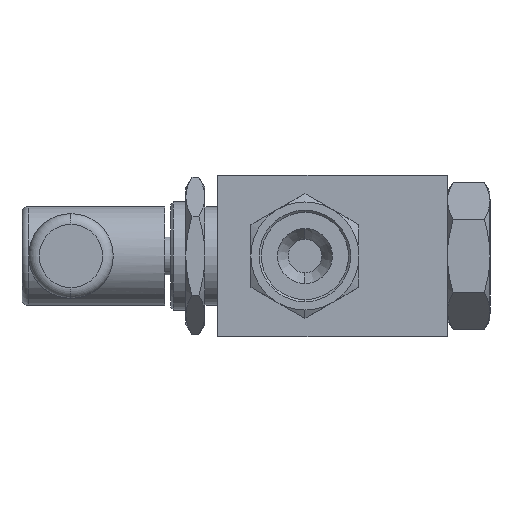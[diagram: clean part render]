
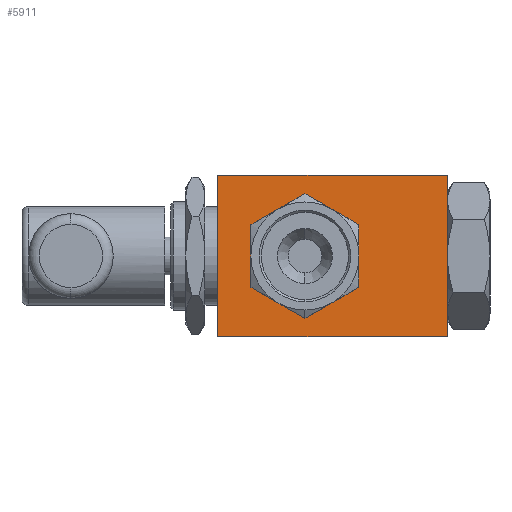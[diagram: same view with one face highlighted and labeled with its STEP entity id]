
A CAD part, left-side view. The second image highlights one B-rep face of the part: STEP entity #5911.
In plain terms, the highlighted planar face has unit normal (-1, 0, 0).
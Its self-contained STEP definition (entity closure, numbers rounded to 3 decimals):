
#17 = CARTESIAN_POINT ( 'NONE',  ( -33.25, -27., 19. ) ) ;
#22 = EDGE_LOOP ( 'NONE', ( #5785, #805, #2081, #5235 ) ) ;
#73 = DIRECTION ( 'NONE',  ( 0., 0., -1. ) ) ;
#157 = DIRECTION ( 'NONE',  ( 1., 0., 0. ) ) ;
#161 = VERTEX_POINT ( 'NONE', #2032 ) ;
#166 = CARTESIAN_POINT ( 'NONE',  ( -33.25, 6.5, 0. ) ) ;
#177 = CARTESIAN_POINT ( 'NONE',  ( -33.25, 27., 19. ) ) ;
#188 = CARTESIAN_POINT ( 'NONE',  ( -33.25, 6.5, 0. ) ) ;
#257 = CIRCLE ( 'NONE', #3894, 11. ) ;
#263 = AXIS2_PLACEMENT_3D ( 'NONE', #4105, #4144, #1072 ) ;
#287 = ORIENTED_EDGE ( 'NONE', *, *, #4825, .T. ) ;
#291 = PLANE ( 'NONE',  #3183 ) ;
#297 = CARTESIAN_POINT ( 'NONE',  ( -33.25, 1., -9.526 ) ) ;
#320 = DIRECTION ( 'NONE',  ( 0., 0., -1. ) ) ;
#379 = CIRCLE ( 'NONE', #4836, 11. ) ;
#391 = DIRECTION ( 'NONE',  ( 1., 0., 0. ) ) ;
#470 = DIRECTION ( 'NONE',  ( 0., -1., 0. ) ) ;
#507 = EDGE_LOOP ( 'NONE', ( #5704, #287, #4415, #6418, #4555, #4846, #2283 ) ) ;
#682 = DIRECTION ( 'NONE',  ( 1., 0., 0. ) ) ;
#783 = CARTESIAN_POINT ( 'NONE',  ( -33.25, 27., -19. ) ) ;
#805 = ORIENTED_EDGE ( 'NONE', *, *, #3431, .F. ) ;
#889 = CIRCLE ( 'NONE', #1313, 11. ) ;
#1062 = DIRECTION ( 'NONE',  ( 0., 0., -1. ) ) ;
#1071 = EDGE_CURVE ( 'NONE', #4357, #4450, #889, .T. ) ;
#1072 = DIRECTION ( 'NONE',  ( 0., 0., -1. ) ) ;
#1098 = LINE ( 'NONE', #2522, #3154 ) ;
#1136 = VERTEX_POINT ( 'NONE', #2556 ) ;
#1158 = CARTESIAN_POINT ( 'NONE',  ( -33.25, 6.5, 0. ) ) ;
#1199 = DIRECTION ( 'NONE',  ( 0., 0., -1. ) ) ;
#1313 = AXIS2_PLACEMENT_3D ( 'NONE', #1158, #157, #3057 ) ;
#1315 = VERTEX_POINT ( 'NONE', #17 ) ;
#1452 = EDGE_CURVE ( 'NONE', #2797, #3945, #1891, .T. ) ;
#1615 = AXIS2_PLACEMENT_3D ( 'NONE', #166, #2599, #73 ) ;
#1763 = EDGE_CURVE ( 'NONE', #2067, #4357, #379, .T. ) ;
#1876 = EDGE_CURVE ( 'NONE', #3945, #4934, #1098, .T. ) ;
#1890 = LINE ( 'NONE', #4313, #5568 ) ;
#1891 = LINE ( 'NONE', #5877, #5884 ) ;
#2032 = CARTESIAN_POINT ( 'NONE',  ( -33.25, 17.5, 0. ) ) ;
#2067 = VERTEX_POINT ( 'NONE', #5195 ) ;
#2069 = CARTESIAN_POINT ( 'NONE',  ( -33.25, -27., 19. ) ) ;
#2081 = ORIENTED_EDGE ( 'NONE', *, *, #6422, .F. ) ;
#2133 = DIRECTION ( 'NONE',  ( 0., -1., 0. ) ) ;
#2220 = DIRECTION ( 'NONE',  ( 1., 0., 0. ) ) ;
#2228 = CIRCLE ( 'NONE', #263, 11. ) ;
#2241 = CARTESIAN_POINT ( 'NONE',  ( -33.25, 12., -9.526 ) ) ;
#2265 = CARTESIAN_POINT ( 'NONE',  ( -33.25, -27., 19. ) ) ;
#2283 = ORIENTED_EDGE ( 'NONE', *, *, #1763, .T. ) ;
#2522 = CARTESIAN_POINT ( 'NONE',  ( -33.25, -27., -19. ) ) ;
#2556 = CARTESIAN_POINT ( 'NONE',  ( -33.25, 12., 9.526 ) ) ;
#2599 = DIRECTION ( 'NONE',  ( 1., 0., 0. ) ) ;
#2669 = CARTESIAN_POINT ( 'NONE',  ( -33.25, 6.5, 0. ) ) ;
#2797 = VERTEX_POINT ( 'NONE', #177 ) ;
#2968 = AXIS2_PLACEMENT_3D ( 'NONE', #188, #2220, #3149 ) ;
#3057 = DIRECTION ( 'NONE',  ( 0., 0., -1. ) ) ;
#3149 = DIRECTION ( 'NONE',  ( 0., 0., -1. ) ) ;
#3154 = VECTOR ( 'NONE', #2133, 1000. ) ;
#3160 = DIRECTION ( 'NONE',  ( 1., 0., 0. ) ) ;
#3183 = AXIS2_PLACEMENT_3D ( 'NONE', #2265, #682, #1199 ) ;
#3422 = CARTESIAN_POINT ( 'NONE',  ( -33.25, 6.5, 11. ) ) ;
#3431 = EDGE_CURVE ( 'NONE', #1315, #4934, #6055, .T. ) ;
#3432 = DIRECTION ( 'NONE',  ( 0., 0., -1. ) ) ;
#3894 = AXIS2_PLACEMENT_3D ( 'NONE', #6251, #3160, #5138 ) ;
#3945 = VERTEX_POINT ( 'NONE', #783 ) ;
#4086 = VERTEX_POINT ( 'NONE', #3422 ) ;
#4105 = CARTESIAN_POINT ( 'NONE',  ( -33.25, 6.5, 0. ) ) ;
#4144 = DIRECTION ( 'NONE',  ( 1., 0., 0. ) ) ;
#4209 = EDGE_CURVE ( 'NONE', #1136, #4086, #2228, .T. ) ;
#4313 = CARTESIAN_POINT ( 'NONE',  ( -33.25, -27., 19. ) ) ;
#4320 = CARTESIAN_POINT ( 'NONE',  ( -33.25, -27., -19. ) ) ;
#4340 = VERTEX_POINT ( 'NONE', #5626 ) ;
#4357 = VERTEX_POINT ( 'NONE', #297 ) ;
#4415 = ORIENTED_EDGE ( 'NONE', *, *, #5935, .T. ) ;
#4450 = VERTEX_POINT ( 'NONE', #2241 ) ;
#4555 = ORIENTED_EDGE ( 'NONE', *, *, #5701, .T. ) ;
#4737 = FACE_OUTER_BOUND ( 'NONE', #22, .T. ) ;
#4765 = DIRECTION ( 'NONE',  ( 1., 0., 0. ) ) ;
#4797 = CARTESIAN_POINT ( 'NONE',  ( -33.25, 6.5, 0. ) ) ;
#4815 = VECTOR ( 'NONE', #1062, 1000. ) ;
#4825 = EDGE_CURVE ( 'NONE', #4450, #161, #257, .T. ) ;
#4836 = AXIS2_PLACEMENT_3D ( 'NONE', #4797, #391, #5366 ) ;
#4846 = ORIENTED_EDGE ( 'NONE', *, *, #5188, .T. ) ;
#4934 = VERTEX_POINT ( 'NONE', #4320 ) ;
#5042 = CIRCLE ( 'NONE', #2968, 11. ) ;
#5138 = DIRECTION ( 'NONE',  ( 0., 0., -1. ) ) ;
#5139 = FACE_BOUND ( 'NONE', #507, .T. ) ;
#5148 = CIRCLE ( 'NONE', #5665, 11. ) ;
#5188 = EDGE_CURVE ( 'NONE', #4340, #2067, #5042, .T. ) ;
#5195 = CARTESIAN_POINT ( 'NONE',  ( -33.25, -4.5, 0. ) ) ;
#5235 = ORIENTED_EDGE ( 'NONE', *, *, #1452, .T. ) ;
#5366 = DIRECTION ( 'NONE',  ( 0., 0., -1. ) ) ;
#5568 = VECTOR ( 'NONE', #470, 1000. ) ;
#5626 = CARTESIAN_POINT ( 'NONE',  ( -33.25, 1., 9.526 ) ) ;
#5665 = AXIS2_PLACEMENT_3D ( 'NONE', #2669, #4765, #320 ) ;
#5701 = EDGE_CURVE ( 'NONE', #4086, #4340, #6095, .T. ) ;
#5704 = ORIENTED_EDGE ( 'NONE', *, *, #1071, .T. ) ;
#5785 = ORIENTED_EDGE ( 'NONE', *, *, #1876, .T. ) ;
#5877 = CARTESIAN_POINT ( 'NONE',  ( -33.25, 27., 19. ) ) ;
#5884 = VECTOR ( 'NONE', #3432, 1000. ) ;
#5911 = ADVANCED_FACE ( 'NONE', ( #4737, #5139 ), #291, .F. ) ;
#5935 = EDGE_CURVE ( 'NONE', #161, #1136, #5148, .T. ) ;
#6055 = LINE ( 'NONE', #2069, #4815 ) ;
#6095 = CIRCLE ( 'NONE', #1615, 11. ) ;
#6251 = CARTESIAN_POINT ( 'NONE',  ( -33.25, 6.5, 0. ) ) ;
#6418 = ORIENTED_EDGE ( 'NONE', *, *, #4209, .T. ) ;
#6422 = EDGE_CURVE ( 'NONE', #2797, #1315, #1890, .T. ) ;
